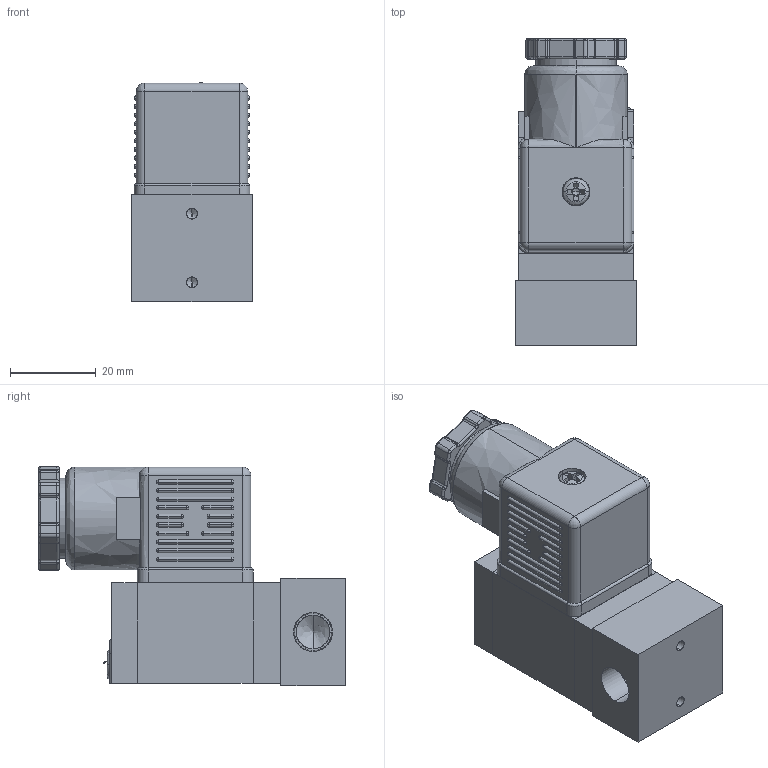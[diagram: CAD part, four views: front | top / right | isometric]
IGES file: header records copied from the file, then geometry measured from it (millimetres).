
Start section: SolidWorks IGES file using analytic representation for surfaces
Global section: file name: C:\Users\Toshiba\Desktop\SS231-01-#C#.IGS; native system: SolidWorks 2014; preprocessor: SolidWorks 2014; author: Toshiba; date: 160801.111122; units: millimetre
Bounding box: 28 x 71.5 x 51.14 mm (x, y, z)
Surface area: 19689.4 mm2 (no closed solid volume)
Topology: 0 solids, 0 shells, 577 faces, 4574 edges, 4434 vertices
Faces by surface type: revolution 368, bspline 209
